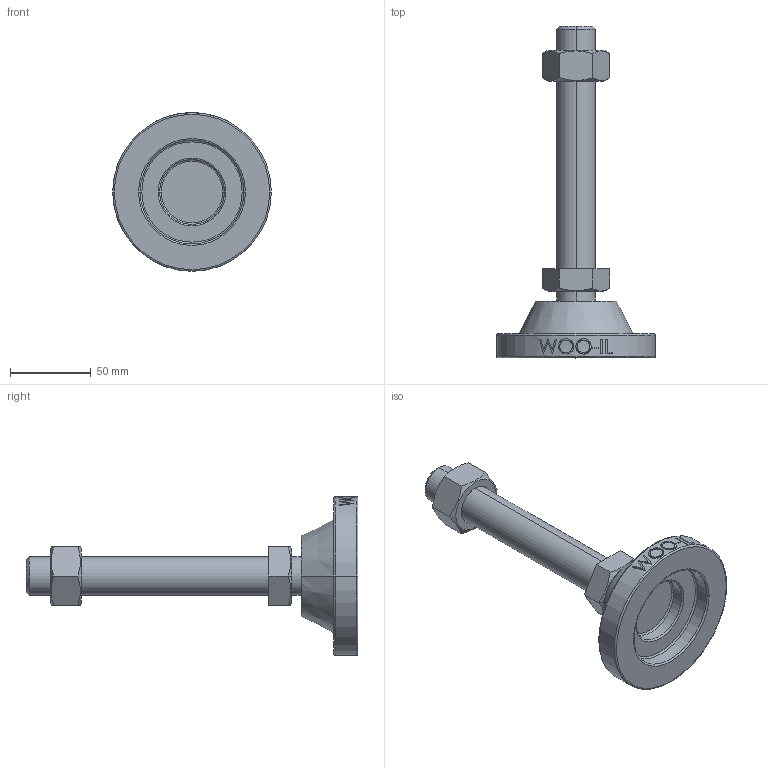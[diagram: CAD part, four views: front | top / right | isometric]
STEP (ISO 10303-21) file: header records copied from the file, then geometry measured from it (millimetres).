
FILE_DESCRIPTION (( 'STEP AP214' ), '1' );
FILE_NAME ('MFN98-M24-150.step', '2021-01-21T06:14:47', ( '' ), ( '' ), 'SwSTEP 2.0', 'SolidWorks 2019', '' );
FILE_SCHEMA (( 'AUTOMOTIVE_DESIGN' ));
Length unit declared in the file: millimetre
Products named in the file (2): MFN98-M24-150
Bounding box: 98 x 205 x 98 mm (x, y, z)
Volume: 225485.7 mm3; surface area: 44214.9 mm2
Topology: 2 solids, 2 shells, 111 faces, 259 edges, 166 vertices
Faces by surface type: plane 49, cylinder 20, bspline 16, cone 14, torus 12
Entity records: 4791 total; most frequent: CARTESIAN_POINT 2310, ORIENTED_EDGE 518, DIRECTION 471, EDGE_CURVE 259, AXIS2_PLACEMENT_3D 185, VERTEX_POINT 166, EDGE_LOOP 127, ADVANCED_FACE 111
